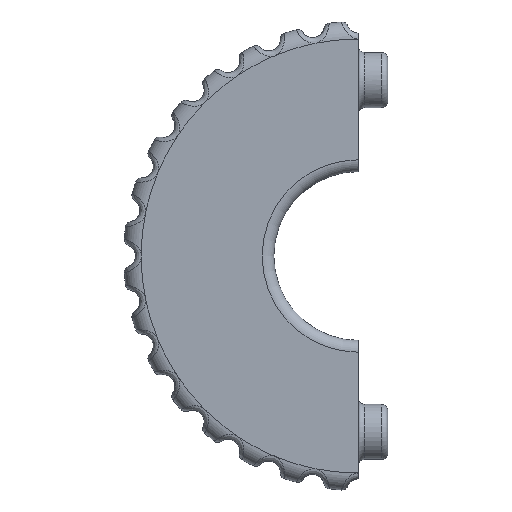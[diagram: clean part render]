
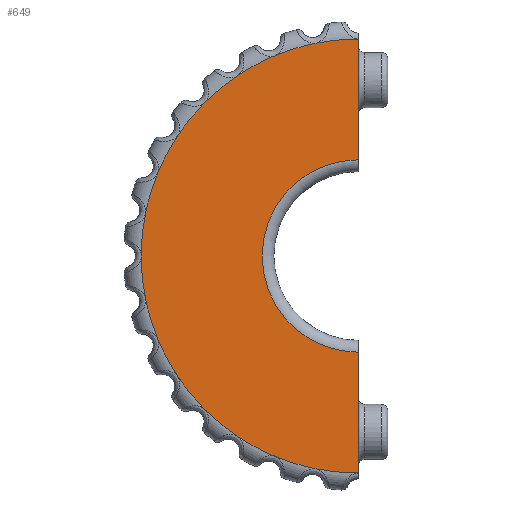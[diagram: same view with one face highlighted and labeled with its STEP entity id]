
A CAD part, front view. The second image highlights one B-rep face of the part: STEP entity #649.
In plain terms, the highlighted planar face has unit normal (0, -1, 0).
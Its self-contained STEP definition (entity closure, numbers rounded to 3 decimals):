
#185=PLANE('',#3789);
#348=LINE('',#5016,#463);
#381=LINE('',#6601,#496);
#463=VECTOR('',#4048,1.);
#496=VECTOR('',#4217,1.);
#649=ADVANCED_FACE('',(#932),#185,.F.);
#932=FACE_OUTER_BOUND('',#1161,.T.);
#1161=EDGE_LOOP('',(#1889,#1890,#1891,#1892,#1893,#1894,#1895,#1896,#1897,
#1898,#1899,#1900,#1901,#1902,#1903,#1904,#1905,#1906,#1907));
#1889=ORIENTED_EDGE('',*,*,#3055,.F.);
#1890=ORIENTED_EDGE('',*,*,#3179,.T.);
#1891=ORIENTED_EDGE('',*,*,#2921,.F.);
#1892=ORIENTED_EDGE('',*,*,#2902,.T.);
#1893=ORIENTED_EDGE('',*,*,#2931,.T.);
#1894=ORIENTED_EDGE('',*,*,#2945,.T.);
#1895=ORIENTED_EDGE('',*,*,#2965,.T.);
#1896=ORIENTED_EDGE('',*,*,#2981,.T.);
#1897=ORIENTED_EDGE('',*,*,#3008,.T.);
#1898=ORIENTED_EDGE('',*,*,#3018,.T.);
#1899=ORIENTED_EDGE('',*,*,#3028,.T.);
#1900=ORIENTED_EDGE('',*,*,#3158,.T.);
#1901=ORIENTED_EDGE('',*,*,#3148,.T.);
#1902=ORIENTED_EDGE('',*,*,#3138,.T.);
#1903=ORIENTED_EDGE('',*,*,#3111,.T.);
#1904=ORIENTED_EDGE('',*,*,#3091,.T.);
#1905=ORIENTED_EDGE('',*,*,#3071,.T.);
#1906=ORIENTED_EDGE('',*,*,#3061,.T.);
#1907=ORIENTED_EDGE('',*,*,#3042,.T.);
#2592=VERTEX_POINT('',#4880);
#2593=VERTEX_POINT('',#4881);
#2608=VERTEX_POINT('',#5017);
#2616=VERTEX_POINT('',#5088);
#2626=VERTEX_POINT('',#5290);
#2640=VERTEX_POINT('',#5557);
#2650=VERTEX_POINT('',#5744);
#2665=VERTEX_POINT('',#6156);
#2671=VERTEX_POINT('',#6277);
#2677=VERTEX_POINT('',#6398);
#2686=VERTEX_POINT('',#6547);
#2687=VERTEX_POINT('',#6549);
#2698=VERTEX_POINT('',#6600);
#2703=VERTEX_POINT('',#6637);
#2709=VERTEX_POINT('',#6758);
#2723=VERTEX_POINT('',#7044);
#2737=VERTEX_POINT('',#7294);
#2752=VERTEX_POINT('',#7706);
#2758=VERTEX_POINT('',#7827);
#2902=EDGE_CURVE('',#2592,#2593,#3427,.T.);
#2921=EDGE_CURVE('',#2592,#2608,#348,.T.);
#2931=EDGE_CURVE('',#2593,#2616,#3440,.T.);
#2945=EDGE_CURVE('',#2616,#2626,#3444,.T.);
#2965=EDGE_CURVE('',#2626,#2640,#3448,.T.);
#2981=EDGE_CURVE('',#2640,#2650,#3452,.T.);
#3008=EDGE_CURVE('',#2650,#2665,#3457,.T.);
#3018=EDGE_CURVE('',#2665,#2671,#3461,.T.);
#3028=EDGE_CURVE('',#2671,#2677,#3465,.T.);
#3042=EDGE_CURVE('',#2687,#2686,#3470,.T.);
#3055=EDGE_CURVE('',#2698,#2686,#381,.T.);
#3061=EDGE_CURVE('',#2703,#2687,#3479,.T.);
#3071=EDGE_CURVE('',#2709,#2703,#3483,.T.);
#3091=EDGE_CURVE('',#2723,#2709,#3487,.T.);
#3111=EDGE_CURVE('',#2737,#2723,#3491,.T.);
#3138=EDGE_CURVE('',#2752,#2737,#3496,.T.);
#3148=EDGE_CURVE('',#2758,#2752,#3500,.T.);
#3158=EDGE_CURVE('',#2677,#2758,#3504,.T.);
#3179=EDGE_CURVE('',#2698,#2608,#3509,.T.);
#3427=CIRCLE('',#3642,18.5);
#3440=CIRCLE('',#3660,18.5);
#3444=CIRCLE('',#3667,18.5);
#3448=CIRCLE('',#3675,18.5);
#3452=CIRCLE('',#3683,18.5);
#3457=CIRCLE('',#3693,18.5);
#3461=CIRCLE('',#3700,18.5);
#3465=CIRCLE('',#3707,18.5);
#3470=CIRCLE('',#3716,18.5);
#3479=CIRCLE('',#3727,18.5);
#3483=CIRCLE('',#3734,18.5);
#3487=CIRCLE('',#3742,18.5);
#3491=CIRCLE('',#3750,18.5);
#3496=CIRCLE('',#3760,18.5);
#3500=CIRCLE('',#3767,18.5);
#3504=CIRCLE('',#3774,18.5);
#3509=CIRCLE('',#3788,8.2);
#3642=AXIS2_PLACEMENT_3D('',#4879,#4017,#4018);
#3660=AXIS2_PLACEMENT_3D('',#5087,#4063,#4064);
#3667=AXIS2_PLACEMENT_3D('',#5289,#4079,#4080);
#3675=AXIS2_PLACEMENT_3D('',#5556,#4099,#4100);
#3683=AXIS2_PLACEMENT_3D('',#5743,#4119,#4120);
#3693=AXIS2_PLACEMENT_3D('',#6155,#4143,#4144);
#3700=AXIS2_PLACEMENT_3D('',#6276,#4159,#4160);
#3707=AXIS2_PLACEMENT_3D('',#6397,#4175,#4176);
#3716=AXIS2_PLACEMENT_3D('',#6548,#4197,#4198);
#3727=AXIS2_PLACEMENT_3D('',#6636,#4227,#4228);
#3734=AXIS2_PLACEMENT_3D('',#6757,#4243,#4244);
#3742=AXIS2_PLACEMENT_3D('',#7043,#4263,#4264);
#3750=AXIS2_PLACEMENT_3D('',#7293,#4283,#4284);
#3760=AXIS2_PLACEMENT_3D('',#7705,#4307,#4308);
#3767=AXIS2_PLACEMENT_3D('',#7826,#4323,#4324);
#3774=AXIS2_PLACEMENT_3D('',#7947,#4339,#4340);
#3788=AXIS2_PLACEMENT_3D('',#8063,#4380,#4381);
#3789=AXIS2_PLACEMENT_3D('',#8064,#4382,#4383);
#4017=DIRECTION('',(0.,-1.,0.));
#4018=DIRECTION('',(0.,0.,1.));
#4048=DIRECTION('',(0.,0.,-1.));
#4063=DIRECTION('',(0.,-1.,0.));
#4064=DIRECTION('',(0.,0.,1.));
#4079=DIRECTION('',(0.,-1.,0.));
#4080=DIRECTION('',(0.,0.,1.));
#4099=DIRECTION('',(0.,-1.,0.));
#4100=DIRECTION('',(0.,0.,1.));
#4119=DIRECTION('',(0.,-1.,0.));
#4120=DIRECTION('',(0.,0.,1.));
#4143=DIRECTION('',(0.,-1.,0.));
#4144=DIRECTION('',(0.,0.,1.));
#4159=DIRECTION('',(0.,-1.,0.));
#4160=DIRECTION('',(0.,0.,1.));
#4175=DIRECTION('',(0.,-1.,0.));
#4176=DIRECTION('',(0.,0.,1.));
#4197=DIRECTION('',(0.,-1.,0.));
#4198=DIRECTION('',(0.,0.,1.));
#4217=DIRECTION('',(0.,0.,-1.));
#4227=DIRECTION('',(0.,-1.,0.));
#4228=DIRECTION('',(0.,0.,1.));
#4243=DIRECTION('',(0.,-1.,0.));
#4244=DIRECTION('',(0.,0.,1.));
#4263=DIRECTION('',(0.,-1.,0.));
#4264=DIRECTION('',(0.,0.,1.));
#4283=DIRECTION('',(0.,-1.,0.));
#4284=DIRECTION('',(0.,0.,1.));
#4307=DIRECTION('',(0.,-1.,0.));
#4308=DIRECTION('',(0.,0.,1.));
#4323=DIRECTION('',(0.,-1.,0.));
#4324=DIRECTION('',(0.,0.,1.));
#4339=DIRECTION('',(0.,-1.,0.));
#4340=DIRECTION('',(0.,0.,1.));
#4380=DIRECTION('',(0.,1.,0.));
#4381=DIRECTION('',(0.,0.,1.));
#4382=DIRECTION('',(0.,1.,0.));
#4383=DIRECTION('',(0.,0.,1.));
#4879=CARTESIAN_POINT('',(0.,-10.,0.));
#4880=CARTESIAN_POINT('',(0.,-10.,18.5));
#4881=CARTESIAN_POINT('',(-3.609,-10.,18.145));
#5016=CARTESIAN_POINT('',(0.,-10.,20.));
#5017=CARTESIAN_POINT('',(0.,-10.,8.2));
#5087=CARTESIAN_POINT('',(0.,-10.,0.));
#5088=CARTESIAN_POINT('',(-7.08,-10.,17.092));
#5289=CARTESIAN_POINT('',(0.,-10.,0.));
#5290=CARTESIAN_POINT('',(-10.278,-10.,15.382));
#5556=CARTESIAN_POINT('',(0.,-10.,0.));
#5557=CARTESIAN_POINT('',(-13.081,-10.,13.081));
#5743=CARTESIAN_POINT('',(0.,-10.,0.));
#5744=CARTESIAN_POINT('',(-15.382,-10.,10.278));
#6155=CARTESIAN_POINT('',(0.,-10.,0.));
#6156=CARTESIAN_POINT('',(-17.092,-10.,7.08));
#6276=CARTESIAN_POINT('',(0.,-10.,0.));
#6277=CARTESIAN_POINT('',(-18.145,-10.,3.609));
#6397=CARTESIAN_POINT('',(0.,-10.,0.));
#6398=CARTESIAN_POINT('',(-18.5,-10.,0.));
#6547=CARTESIAN_POINT('',(0.,-10.,-18.5));
#6548=CARTESIAN_POINT('',(0.,-10.,0.));
#6549=CARTESIAN_POINT('',(-3.609,-10.,-18.145));
#6600=CARTESIAN_POINT('',(0.,-10.,-8.2));
#6601=CARTESIAN_POINT('',(0.,-10.,-8.7));
#6636=CARTESIAN_POINT('',(0.,-10.,0.));
#6637=CARTESIAN_POINT('',(-7.08,-10.,-17.092));
#6757=CARTESIAN_POINT('',(0.,-10.,0.));
#6758=CARTESIAN_POINT('',(-10.278,-10.,-15.382));
#7043=CARTESIAN_POINT('',(0.,-10.,0.));
#7044=CARTESIAN_POINT('',(-13.081,-10.,-13.081));
#7293=CARTESIAN_POINT('',(0.,-10.,0.));
#7294=CARTESIAN_POINT('',(-15.382,-10.,-10.278));
#7705=CARTESIAN_POINT('',(0.,-10.,0.));
#7706=CARTESIAN_POINT('',(-17.092,-10.,-7.08));
#7826=CARTESIAN_POINT('',(0.,-10.,0.));
#7827=CARTESIAN_POINT('',(-18.145,-10.,-3.609));
#7947=CARTESIAN_POINT('',(0.,-10.,0.));
#8063=CARTESIAN_POINT('',(0.,-10.,0.));
#8064=CARTESIAN_POINT('',(0.,-10.,0.));
